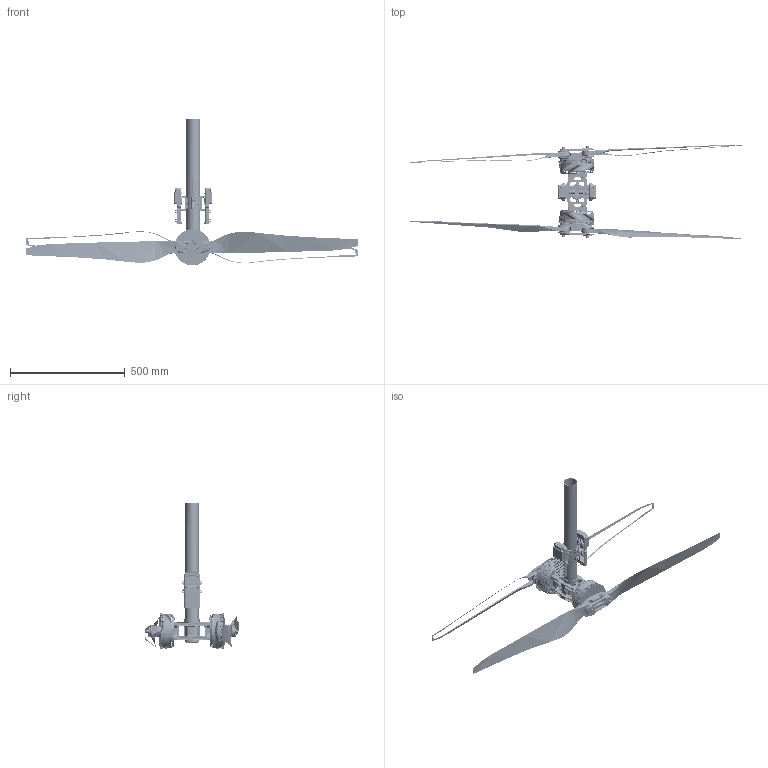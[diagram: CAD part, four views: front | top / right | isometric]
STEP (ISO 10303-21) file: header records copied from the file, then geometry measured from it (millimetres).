
FILE_DESCRIPTION (( 'STEP AP214' ), '1' );
FILE_NAME ('Z113X.STEP', '2026-03-06T02:19:29', ( '' ), ( '' ), 'SwSTEP 2.0', 'SolidWorks 2022', '' );
FILE_SCHEMA (( 'AUTOMOTIVE_DESIGN' ));
Length unit declared in the file: millimetre
Products named in the file (1): Z113X
Bounding box: 1446.33 x 410.51 x 638.7 mm (x, y, z)
Volume: 3599858.7 mm3; surface area: 1363941.5 mm2
Topology: 112 solids, 124 shells, 7592 faces, 20339 edges, 13003 vertices
Faces by surface type: plane 3173, cylinder 3039, cone 918, torus 272, bspline 172, sphere 18
Entity records: 386560 total; most frequent: CARTESIAN_POINT 112049, ORIENTED_EDGE 40286, DIRECTION 39087, EDGE_CURVE 20143, AXIS2_PLACEMENT_3D 14045, VERTEX_POINT 13003, VECTOR 10997, LINE 10997
